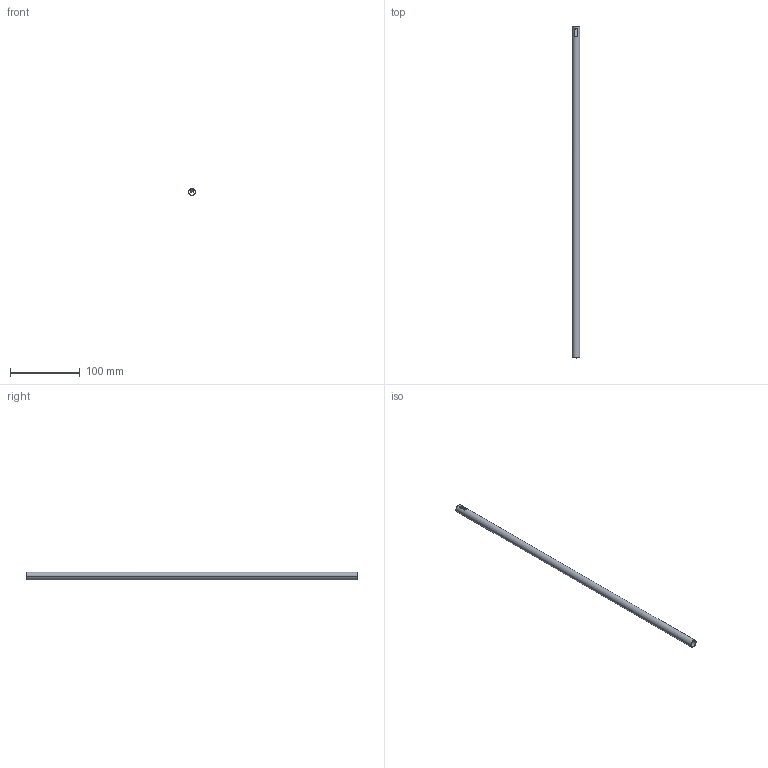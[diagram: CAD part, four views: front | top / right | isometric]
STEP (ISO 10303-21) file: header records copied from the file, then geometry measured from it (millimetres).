
FILE_DESCRIPTION (( 'STEP AP214' ), '1' );
FILE_NAME ('Relingsrohr_2S-Rundrel_P760604300_500.step', '2010-09-07T12:59:24', ( 'grass' ), ( '' ), 'SwSTEP 2.0', 'SolidWorks 2010', '' );
FILE_SCHEMA (( 'AUTOMOTIVE_DESIGN' ));
Length unit declared in the file: millimetre
Products named in the file (1): Relingsrohr_2S-Rundrel_P760604300_500
Bounding box: 11 x 476 x 11 mm (x, y, z)
Volume: 14951.7 mm3; surface area: 30011.3 mm2
Topology: 1 solids, 1 shells, 14 faces, 34 edges, 22 vertices
Faces by surface type: plane 10, cylinder 4
Entity records: 476 total; most frequent: CARTESIAN_POINT 77, DIRECTION 72, ORIENTED_EDGE 68, EDGE_CURVE 34, AXIS2_PLACEMENT_3D 25, VERTEX_POINT 22, VECTOR 22, LINE 22
